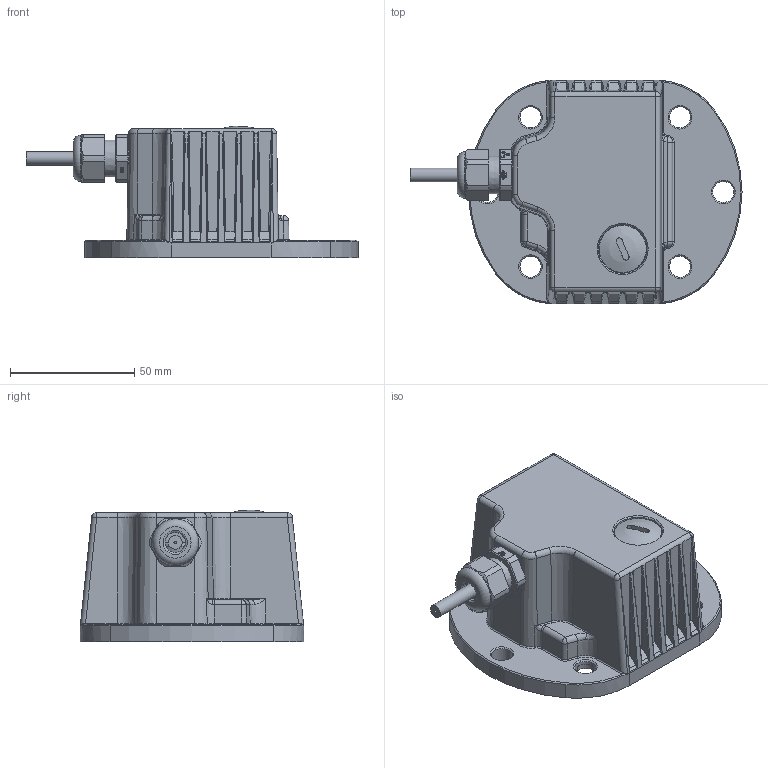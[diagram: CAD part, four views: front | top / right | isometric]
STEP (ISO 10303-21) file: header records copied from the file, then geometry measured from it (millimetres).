
FILE_DESCRIPTION(/* description */ ('Unknown'),/* implementation_level */ '2;1');
FILE_NAME(/* name */ 'EAM_110M_PR',/* time_stamp */ '2024-06-17T17:35:33+02:00',/* author */ ('Unknown'),/* organization */ ('Unknown'),/* preprocessor_version */ 'ST-DEVELOPER v16.7',/* originating_system */ 'DEX',/* authorisation */ $);
FILE_SCHEMA (('AUTOMOTIVE_DESIGN {1 0 10303 214 3 1 1}'));
Length unit declared in the file: millimetre
Products named in the file (1): EAM_110M_PR2
Bounding box: 133.54 x 89.98 x 52.97 mm (x, y, z)
Volume: 76852.4 mm3; surface area: 76982.7 mm2
Topology: 12 solids, 13 shells, 1638 faces, 4101 edges, 2526 vertices
Faces by surface type: plane 909, cylinder 404, cone 162, bspline 90, torus 68, sphere 5
Full cylindrical faces by diameter (mm): 0.409 x1, 1 x1, 1.6 x4, 2.2 x40, 2.5 x4, 4.134 x1, 4.5 x4, 5 x1, 5.5 x1, 8 x1, 8.1 x1, 8.2 x1, 8.5 x6, 12 x1, 13.5 x1, 14.53 x1, 15 x1, 15.2 x3, 18.7 x1, 19 x1, 19.5 x1, 20 x1
Entity records: 52326 total; most frequent: CARTESIAN_POINT 14851, DIRECTION 7636, ORIENTED_EDGE 7626, EDGE_CURVE 3813, AXIS2_PLACEMENT_3D 2614, VERTEX_POINT 2412, LINE 2408, VECTOR 2408
